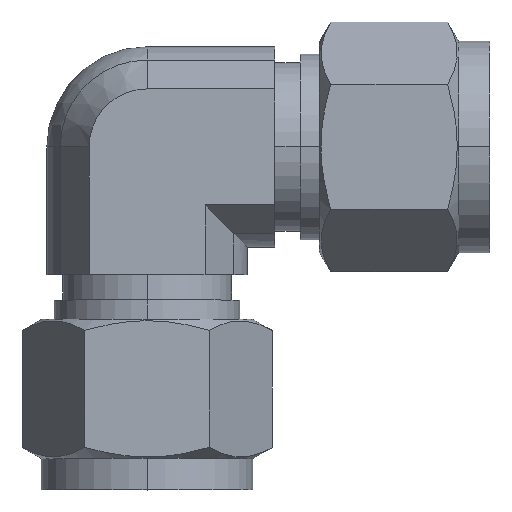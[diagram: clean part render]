
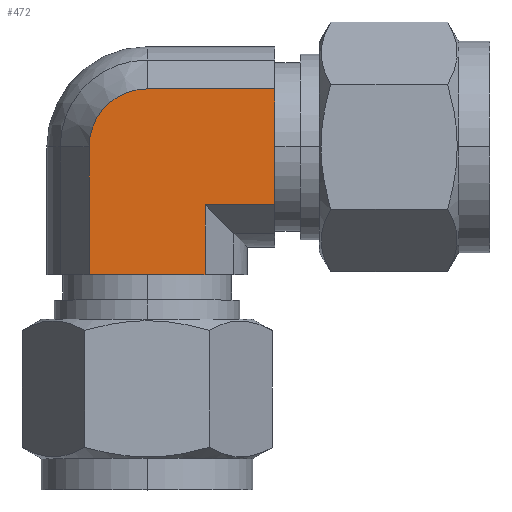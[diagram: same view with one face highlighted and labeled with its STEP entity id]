
A CAD part, top view. The second image highlights one B-rep face of the part: STEP entity #472.
In plain terms, the highlighted planar face has unit normal (0, 0, 1).
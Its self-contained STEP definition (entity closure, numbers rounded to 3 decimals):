
#448 = ORIENTED_EDGE ( 'NONE', *, *, #826, .F. ) ;
#472 = ADVANCED_FACE ( 'NONE', ( #1692 ), #1691, .F. ) ;
#473 = ORIENTED_EDGE ( 'NONE', *, *, #518, .T. ) ;
#474 = ORIENTED_EDGE ( 'NONE', *, *, #475, .F. ) ;
#475 = EDGE_CURVE ( 'NONE', #476, #497, #1686, .T. ) ;
#476 = VERTEX_POINT ( 'NONE', #1682 ) ;
#477 = ORIENTED_EDGE ( 'NONE', *, *, #478, .F. ) ;
#478 = EDGE_CURVE ( 'NONE', #479, #476, #1681, .T. ) ;
#479 = VERTEX_POINT ( 'NONE', #1677 ) ;
#480 = ORIENTED_EDGE ( 'NONE', *, *, #481, .T. ) ;
#481 = EDGE_CURVE ( 'NONE', #479, #482, #1676, .T. ) ;
#482 = VERTEX_POINT ( 'NONE', #1672 ) ;
#483 = ORIENTED_EDGE ( 'NONE', *, *, #484, .F. ) ;
#484 = EDGE_CURVE ( 'NONE', #485, #482, #1671, .T. ) ;
#485 = VERTEX_POINT ( 'NONE', #1666 ) ;
#497 = VERTEX_POINT ( 'NONE', #1711 ) ;
#499 = VERTEX_POINT ( 'NONE', #1710 ) ;
#518 = EDGE_CURVE ( 'NONE', #499, #497, #1891, .T. ) ;
#712 = ORIENTED_EDGE ( 'NONE', *, *, #713, .F. ) ;
#713 = EDGE_CURVE ( 'NONE', #827, #485, #2015, .T. ) ;
#826 = EDGE_CURVE ( 'NONE', #499, #827, #2125, .T. ) ;
#827 = VERTEX_POINT ( 'NONE', #2121 ) ;
#844 = EDGE_LOOP ( 'NONE', ( #473, #474, #477, #480, #483, #712, #448 ) ) ;
#1666 = CARTESIAN_POINT ( 'NONE',  ( -5.947, 0., 10.3 ) ) ;
#1667 = DIRECTION ( 'NONE',  ( -1., 0., 0. ) ) ;
#1668 = DIRECTION ( 'NONE',  ( 0., 0., -1. ) ) ;
#1669 = CARTESIAN_POINT ( 'NONE',  ( 0., 0., 10.3 ) ) ;
#1670 = AXIS2_PLACEMENT_3D ( 'NONE', #1669, #1668, #1667 ) ;
#1671 = CIRCLE ( 'NONE', #1670, 5.947 ) ;
#1672 = CARTESIAN_POINT ( 'NONE',  ( 0., 5.947, 10.3 ) ) ;
#1673 = DIRECTION ( 'NONE',  ( -1., 0., 0. ) ) ;
#1674 = VECTOR ( 'NONE', #1673, 1000. ) ;
#1675 = CARTESIAN_POINT ( 'NONE',  ( 13.12, 5.947, 10.3 ) ) ;
#1676 = LINE ( 'NONE', #1675, #1674 ) ;
#1677 = CARTESIAN_POINT ( 'NONE',  ( 13.12, 5.947, 10.3 ) ) ;
#1678 = DIRECTION ( 'NONE',  ( 0., -1., 0. ) ) ;
#1679 = VECTOR ( 'NONE', #1678, 1000. ) ;
#1680 = CARTESIAN_POINT ( 'NONE',  ( 13.12, 5.947, 10.3 ) ) ;
#1681 = LINE ( 'NONE', #1680, #1679 ) ;
#1682 = CARTESIAN_POINT ( 'NONE',  ( 13.12, -5.947, 10.3 ) ) ;
#1683 = DIRECTION ( 'NONE',  ( -1., 0., 0. ) ) ;
#1684 = VECTOR ( 'NONE', #1683, 1000. ) ;
#1685 = CARTESIAN_POINT ( 'NONE',  ( 13.12, -5.947, 10.3 ) ) ;
#1686 = LINE ( 'NONE', #1685, #1684 ) ;
#1687 = DIRECTION ( 'NONE',  ( 0., 1., 0. ) ) ;
#1688 = DIRECTION ( 'NONE',  ( 0., 0., -1. ) ) ;
#1689 = AXIS2_PLACEMENT_3D ( 'NONE', #1690, #1688, #1687 ) ;
#1690 = CARTESIAN_POINT ( 'NONE',  ( 5.947, -13.12, 10.3 ) ) ;
#1691 = PLANE ( 'NONE',  #1689 ) ;
#1692 = FACE_OUTER_BOUND ( 'NONE', #844, .T. ) ;
#1710 = CARTESIAN_POINT ( 'NONE',  ( 5.947, -13.12, 10.3 ) ) ;
#1711 = CARTESIAN_POINT ( 'NONE',  ( 5.947, -5.947, 10.3 ) ) ;
#1862 = VECTOR ( 'NONE', #1889, 1000. ) ;
#1889 = DIRECTION ( 'NONE',  ( 0., 1., 0. ) ) ;
#1890 = CARTESIAN_POINT ( 'NONE',  ( 5.947, -13.12, 10.3 ) ) ;
#1891 = LINE ( 'NONE', #1890, #1862 ) ;
#2012 = DIRECTION ( 'NONE',  ( 0., 1., 0. ) ) ;
#2013 = VECTOR ( 'NONE', #2012, 1000. ) ;
#2014 = CARTESIAN_POINT ( 'NONE',  ( -5.947, -13.12, 10.3 ) ) ;
#2015 = LINE ( 'NONE', #2014, #2013 ) ;
#2121 = CARTESIAN_POINT ( 'NONE',  ( -5.947, -13.12, 10.3 ) ) ;
#2122 = DIRECTION ( 'NONE',  ( -1., 0., 0. ) ) ;
#2123 = VECTOR ( 'NONE', #2122, 1000. ) ;
#2124 = CARTESIAN_POINT ( 'NONE',  ( 5.947, -13.12, 10.3 ) ) ;
#2125 = LINE ( 'NONE', #2124, #2123 ) ;
